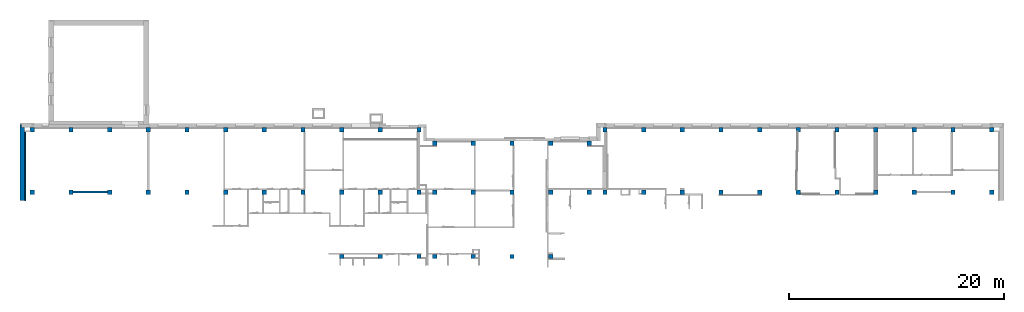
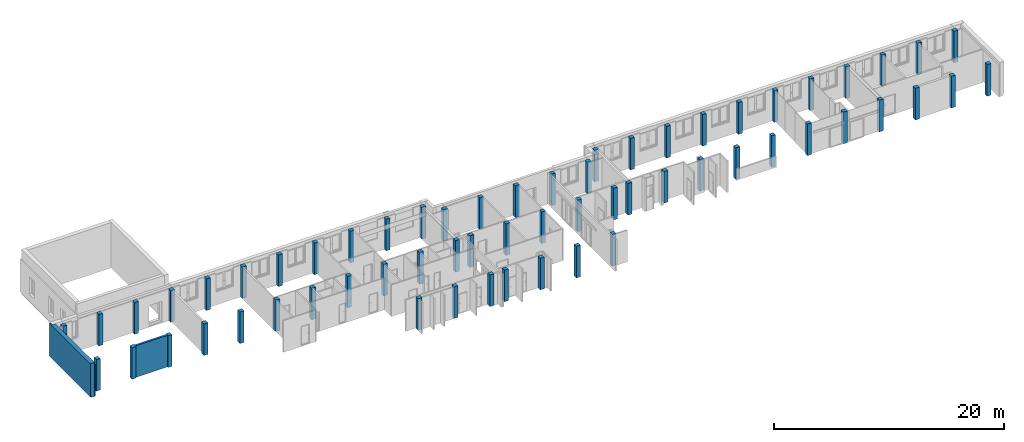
# One storey, part 1 of 37: 61 columns, 3 walls.
"""IFC4 building model written with IfcOpenShell, lengths in metres."""

from ifc_helpers import new_model, entity, si_unit, converted_unit, derived_unit, frame, frame_2d, origin, origin_with_axes, place, context, subcontext, project, spatial, polyline, rectangle, outline, extrude, clip, bounded_halfspace, material, layer, layer_set, layer_usage, element, save


model = new_model("IFC4")

# Units and contexts
model_context = context("Model", 3, precision=1e-05, world=origin())
body_context = subcontext(model_context, "Body", "Model", "MODEL_VIEW")
ifc_project = project(units=[si_unit("LENGTHUNIT", "METRE"), si_unit("AREAUNIT", "SQUARE_METRE"), si_unit("VOLUMEUNIT", "CUBIC_METRE"), si_unit("MASSUNIT", "GRAM", prefix="KILO"), converted_unit("PLANEANGLEUNIT", "DEGREE", entity("IfcPlaneAngleMeasure", 0.0174532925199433), si_unit("PLANEANGLEUNIT", "RADIAN"), dimensions=[0, 0, 0, 0, 0, 0, 0]), derived_unit("THERMALTRANSMITTANCEUNIT", [(si_unit("POWERUNIT", "WATT"), 1), (si_unit("THERMODYNAMICTEMPERATUREUNIT", "KELVIN"), -1), (si_unit("LENGTHUNIT", "METRE"), -2)]), derived_unit("VOLUMETRICFLOWRATEUNIT", [(si_unit("LENGTHUNIT", "METRE"), 3), (converted_unit("TIMEUNIT", "hour", entity("IfcTimeMeasure", 3600.0), si_unit("TIMEUNIT", "SECOND"), dimensions=[0, 0, 1, 0, 0, 0, 0]), -1), (si_unit("LENGTHUNIT", "METRE"), -1)])], contexts=[model_context])

# Site, building, storey
site_placement = place(None, origin())
site = spatial("IfcSite", under=ifc_project, at=site_placement, Name="3. ASŘ", CompositionType="ELEMENT")
building_placement = place(site_placement, origin())
building = spatial("IfcBuilding", under=site, at=building_placement, Name="Pavilon B", CompositionType="ELEMENT")
storey_placement = place(building_placement, origin())
storey = spatial("IfcBuildingStorey", under=building, at=storey_placement, Name="Půdorys 1.NP", CompositionType="ELEMENT", Elevation=0.0)

# Columns
ifc_material_1 = material(Name="ZELEZOBETONOVÁ KCE")
column_1_placement = place(storey_placement, frame((81.7, -21.4, -0.1)))
element("IfcColumn", 1, at=column_1_placement, inside=storey, material=ifc_material_1, PredefinedType="COLUMN", context=body_context, shape_type="SweptSolid", body=[
    extrude(rectangle(XDim=0.4, YDim=0.4, at=frame_2d((-0.2, -0.2), x_axis=(-1.0, 0.0))), origin_with_axes(), (0.0, 0.0, 1.0), 3.35),
])
ifc_material_2 = material(Name="ZELEZOBETONOVÁ KCE")
column_2_placement = place(storey_placement, frame((78.1, -21.4, -0.1)))
element("IfcColumn", 2, at=column_2_placement, inside=storey, material=ifc_material_2, PredefinedType="COLUMN", context=body_context, shape_type="SweptSolid", body=[
    extrude(rectangle(XDim=0.4, YDim=0.4, at=frame_2d((-0.2, -0.2), x_axis=(-1.0, 0.0))), origin_with_axes(), (0.0, 0.0, 1.0), 3.35),
])
ifc_material_3 = material(Name="ZELEZOBETONOVÁ KCE")
column_3_placement = place(storey_placement, frame((85.3, -21.4, -0.1)))
element("IfcColumn", 3, at=column_3_placement, inside=storey, material=ifc_material_3, PredefinedType="COLUMN", context=body_context, shape_type="SweptSolid", body=[
    extrude(rectangle(XDim=0.4, YDim=0.4, at=frame_2d((-0.2, -0.2), x_axis=(-1.0, 0.0))), origin_with_axes(), (0.0, 0.0, 1.0), 3.35),
])
ifc_material_4 = material(Name="ZELEZOBETONOVÁ KCE")
column_4_placement = place(storey_placement, frame((47.85, -16.85, -0.1)))
element("IfcColumn", 4, at=column_4_placement, inside=storey, material=ifc_material_4, PredefinedType="COLUMN", context=body_context, shape_type="SweptSolid", body=[
    extrude(rectangle(XDim=0.4, YDim=0.4, at=frame_2d((-0.2, -0.2), x_axis=(-1.0, 0.0))), origin_with_axes(), (0.0, 0.0, 1.0), 3.35),
])
ifc_material_5 = material(Name="ZELEZOBETONOVÁ KCE")
column_5_placement = place(storey_placement, frame((24.8, -21.4, -0.1)))
element("IfcColumn", 5, at=column_5_placement, inside=storey, material=ifc_material_5, PredefinedType="COLUMN", context=body_context, shape_type="SweptSolid", body=[
    extrude(rectangle(XDim=0.4, YDim=0.4, at=frame_2d((-0.2, -0.2), x_axis=(-1.0, 0.0))), origin_with_axes(), (0.0, 0.0, 1.0), 3.35),
])
ifc_material_6 = material(Name="ZELEZOBETONOVÁ KCE")
column_6_placement = place(storey_placement, frame((-3.99999999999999, -21.4, -0.1)))
element("IfcColumn", 6, at=column_6_placement, inside=storey, material=ifc_material_6, PredefinedType="COLUMN", context=body_context, shape_type="SweptSolid", body=[
    extrude(rectangle(XDim=0.4, YDim=0.4, at=frame_2d((-0.2, -0.2), x_axis=(-1.0, 0.0))), origin_with_axes(), (0.0, 0.0, 1.0), 3.35),
])
ifc_material_7 = material(Name="ZELEZOBETONOVÁ KCE")
column_7_placement = place(storey_placement, frame((3.20000000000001, -21.4, -0.1)))
element("IfcColumn", 7, at=column_7_placement, inside=storey, material=ifc_material_7, PredefinedType="COLUMN", context=body_context, shape_type="SweptSolid", body=[
    extrude(rectangle(XDim=0.4, YDim=0.4, at=frame_2d((-0.2, -0.2), x_axis=(-1.0, 0.0))), origin_with_axes(), (0.0, 0.0, 1.0), 3.35),
])
ifc_material_8 = material(Name="ZELEZOBETONOVÁ KCE")
column_8_placement = place(storey_placement, frame((-0.399999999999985, -21.4, -0.1)))
element("IfcColumn", 8, at=column_8_placement, inside=storey, material=ifc_material_8, PredefinedType="COLUMN", context=body_context, shape_type="SweptSolid", body=[
    extrude(rectangle(XDim=0.4, YDim=0.4, at=frame_2d((-0.2, -0.2), x_axis=(-1.0, 0.0))), origin_with_axes(), (0.0, 0.0, 1.0), 3.35),
])
ifc_material_9 = material(Name="ZELEZOBETONOVÁ KCE")
column_9_placement = place(storey_placement, frame((10.4, -21.4, -0.1)))
element("IfcColumn", 9, at=column_9_placement, inside=storey, material=ifc_material_9, PredefinedType="COLUMN", context=body_context, shape_type="SweptSolid", body=[
    extrude(rectangle(XDim=0.4, YDim=0.4, at=frame_2d((-0.2, -0.2), x_axis=(-1.0, 0.0))), origin_with_axes(), (0.0, 0.0, 1.0), 3.35),
])
ifc_material_10 = material(Name="ZELEZOBETONOVÁ KCE")
column_10_placement = place(storey_placement, frame((28.4, -21.4, -0.12)))
element("IfcColumn", 10, at=column_10_placement, inside=storey, material=ifc_material_10, PredefinedType="COLUMN", context=body_context, shape_type="SweptSolid", body=[
    extrude(rectangle(XDim=0.4, YDim=0.4, at=frame_2d((-0.2, -0.2), x_axis=(-1.0, 0.0))), origin_with_axes(), (0.0, 0.0, 1.0), 3.37),
])
ifc_material_11 = material(Name="ZELEZOBETONOVÁ KCE")
column_11_placement = place(storey_placement, frame((33.45, -21.4, -0.1)))
element("IfcColumn", 11, at=column_11_placement, inside=storey, material=ifc_material_11, PredefinedType="COLUMN", context=body_context, shape_type="SweptSolid", body=[
    extrude(rectangle(XDim=0.4, YDim=0.4, at=frame_2d((-0.2, -0.2), x_axis=(-1.0, 0.0))), origin_with_axes(), (0.0, 0.0, 1.0), 3.35),
])
ifc_material_12 = material(Name="ZELEZOBETONOVÁ KCE")
column_12_placement = place(storey_placement, frame((40.65, -27.4, -0.1)))
element("IfcColumn", 12, at=column_12_placement, inside=storey, material=ifc_material_12, PredefinedType="COLUMN", context=body_context, shape_type="SweptSolid", body=[
    extrude(rectangle(XDim=0.4, YDim=0.4, at=frame_2d((-0.2, -0.2), x_axis=(-1.0, 0.0))), origin_with_axes(), (0.0, 0.0, 1.0), 3.35),
])
ifc_material_13 = material(Name="ZELEZOBETONOVÁ KCE")
column_13_placement = place(storey_placement, frame((37.05, -16.85, -0.1)))
element("IfcColumn", 13, at=column_13_placement, inside=storey, material=ifc_material_13, PredefinedType="COLUMN", context=body_context, shape_type="SweptSolid", body=[
    extrude(rectangle(XDim=0.4, YDim=0.4, at=frame_2d((-0.2, -0.2), x_axis=(-1.0, 0.0))), origin_with_axes(), (0.0, 0.0, 1.0), 3.35),
])
ifc_material_14 = material(Name="ZELEZOBETONOVÁ KCE")
column_14_placement = place(storey_placement, frame((40.65, -16.85, -0.1)))
element("IfcColumn", 14, at=column_14_placement, inside=storey, material=ifc_material_14, PredefinedType="COLUMN", context=body_context, shape_type="SweptSolid", body=[
    extrude(rectangle(XDim=0.4, YDim=0.4, at=frame_2d((-0.2, -0.2), x_axis=(-1.0, 0.0))), origin_with_axes(), (0.0, 0.0, 1.0), 3.35),
])
ifc_material_15 = material(Name="ZELEZOBETONOVÁ KCE")
column_15_placement = place(storey_placement, frame((44.25, -16.85, -0.1)))
element("IfcColumn", 15, at=column_15_placement, inside=storey, material=ifc_material_15, PredefinedType="COLUMN", context=body_context, shape_type="SweptSolid", body=[
    extrude(rectangle(XDim=0.4, YDim=0.4, at=frame_2d((-0.2, -0.2), x_axis=(-1.0, 0.0))), origin_with_axes(), (0.0, 0.0, 1.0), 3.35),
])
ifc_material_16 = material(Name="ZELEZOBETONOVÁ KCE")
column_16_placement = place(storey_placement, frame((44.25, -21.4, -0.1)))
element("IfcColumn", 16, at=column_16_placement, inside=storey, material=ifc_material_16, PredefinedType="COLUMN", context=body_context, shape_type="SweptSolid", body=[
    extrude(rectangle(XDim=0.4, YDim=0.4, at=frame_2d((-0.2, -0.2), x_axis=(-1.0, 0.0))), origin_with_axes(), (0.0, 0.0, 1.0), 3.35),
])
ifc_material_17 = material(Name="ZELEZOBETONOVÁ KCE")
column_17_placement = place(storey_placement, frame((47.85, -21.4, -0.1)))
element("IfcColumn", 17, at=column_17_placement, inside=storey, material=ifc_material_17, PredefinedType="COLUMN", context=body_context, shape_type="SweptSolid", body=[
    extrude(rectangle(XDim=0.4, YDim=0.4, at=frame_2d((-0.2, -0.2), x_axis=(-1.0, 0.0))), origin_with_axes(), (0.0, 0.0, 1.0), 3.35),
])
ifc_material_18 = material(Name="ZELEZOBETONOVÁ KCE")
column_18_placement = place(storey_placement, frame((67.3, -21.4, -0.1)))
element("IfcColumn", 18, at=column_18_placement, inside=storey, material=ifc_material_18, PredefinedType="COLUMN", context=body_context, shape_type="SweptSolid", body=[
    extrude(rectangle(XDim=0.4, YDim=0.4, at=frame_2d((-0.2, -0.2), x_axis=(-1.0, 0.0))), origin_with_axes(), (0.0, 0.0, 1.0), 3.35),
])
ifc_material_19 = material(Name="ZELEZOBETONOVÁ KCE")
column_19_placement = place(storey_placement, frame((49.3, -21.4, -0.1)))
element("IfcColumn", 19, at=column_19_placement, inside=storey, material=ifc_material_19, PredefinedType="COLUMN", context=body_context, shape_type="SweptSolid", body=[
    extrude(rectangle(XDim=0.4, YDim=0.4, at=frame_2d((-0.2, -0.2), x_axis=(-1.0, 0.0))), origin_with_axes(), (0.0, 0.0, 1.0), 3.35),
])
ifc_material_20 = material(Name="ZELEZOBETONOVÁ KCE")
column_20_placement = place(storey_placement, frame((52.9, -21.4, -0.1)))
element("IfcColumn", 20, at=column_20_placement, inside=storey, material=ifc_material_20, PredefinedType="COLUMN", context=body_context, shape_type="SweptSolid", body=[
    extrude(rectangle(XDim=0.4, YDim=0.4, at=frame_2d((-0.2, -0.2), x_axis=(-1.0, 0.0))), origin_with_axes(), (0.0, 0.0, 1.0), 3.35),
])
ifc_material_21 = material(Name="ZELEZOBETONOVÁ KCE")
column_21_placement = place(storey_placement, frame((56.5, -21.4, -0.1)))
element("IfcColumn", 21, at=column_21_placement, inside=storey, material=ifc_material_21, PredefinedType="COLUMN", context=body_context, shape_type="SweptSolid", body=[
    extrude(rectangle(XDim=0.4, YDim=0.4, at=frame_2d((-0.2, -0.2), x_axis=(-1.0, 0.0))), origin_with_axes(), (0.0, 0.0, 1.0), 3.35),
])
ifc_material_22 = material(Name="ZELEZOBETONOVÁ KCE")
column_22_placement = place(storey_placement, frame((44.25, -27.4, -0.1)))
element("IfcColumn", 22, at=column_22_placement, inside=storey, material=ifc_material_22, PredefinedType="COLUMN", context=body_context, shape_type="SweptSolid", body=[
    extrude(rectangle(XDim=0.4, YDim=0.4, at=frame_2d((-0.2, -0.2), x_axis=(-1.0, 0.0))), origin_with_axes(), (0.0, 0.0, 1.0), 3.35),
])
ifc_material_23 = material(Name="ZELEZOBETONOVÁ KCE")
column_23_placement = place(storey_placement, frame((52.9, -15.6, -0.1)))
element("IfcColumn", 23, at=column_23_placement, inside=storey, material=ifc_material_23, PredefinedType="COLUMN", context=body_context, shape_type="SweptSolid", body=[
    extrude(rectangle(XDim=0.4, YDim=0.4, at=frame_2d((-0.2, -0.2), x_axis=(-1.0, 0.0))), origin_with_axes(), (0.0, 0.0, 1.0), 3.35),
])
ifc_material_24 = material(Name="ZELEZOBETONOVÁ KCE")
column_24_placement = place(storey_placement, frame((63.7, -15.6, -0.1)))
element("IfcColumn", 24, at=column_24_placement, inside=storey, material=ifc_material_24, PredefinedType="COLUMN", context=body_context, shape_type="SweptSolid", body=[
    extrude(rectangle(XDim=0.4, YDim=0.4, at=frame_2d((-0.2, -0.2), x_axis=(-1.0, 0.0))), origin_with_axes(), (0.0, 0.0, 1.0), 3.35),
])
ifc_material_25 = material(Name="ZELEZOBETONOVÁ KCE")
column_25_placement = place(storey_placement, frame((85.3, -15.6, -0.1)))
element("IfcColumn", 25, at=column_25_placement, inside=storey, material=ifc_material_25, PredefinedType="COLUMN", context=body_context, shape_type="SweptSolid", body=[
    extrude(rectangle(XDim=0.4, YDim=0.4, at=frame_2d((-0.2, -0.2), x_axis=(-1.0, 0.0))), origin_with_axes(), (0.0, 0.0, 1.0), 3.35),
])
ifc_material_26 = material(Name="ZELEZOBETONOVÁ KCE")
column_26_placement = place(storey_placement, frame((56.5, -15.6, -0.1)))
element("IfcColumn", 26, at=column_26_placement, inside=storey, material=ifc_material_26, PredefinedType="COLUMN", context=body_context, shape_type="SweptSolid", body=[
    extrude(rectangle(XDim=0.4, YDim=0.4, at=frame_2d((-0.2, -0.2), x_axis=(-1.0, 0.0))), origin_with_axes(), (0.0, 0.0, 1.0), 3.35),
])
ifc_material_27 = material(Name="ZELEZOBETONOVÁ KCE")
column_27_placement = place(storey_placement, frame((60.1, -15.6, -0.1)))
element("IfcColumn", 27, at=column_27_placement, inside=storey, material=ifc_material_27, PredefinedType="COLUMN", context=body_context, shape_type="SweptSolid", body=[
    extrude(rectangle(XDim=0.4, YDim=0.4, at=frame_2d((-0.2, -0.2), x_axis=(-1.0, 0.0))), origin_with_axes(), (0.0, 0.0, 1.0), 3.35),
])
ifc_material_28 = material(Name="ZELEZOBETONOVÁ KCE")
column_28_placement = place(storey_placement, frame((70.9, -15.6, -0.1)))
element("IfcColumn", 28, at=column_28_placement, inside=storey, material=ifc_material_28, PredefinedType="COLUMN", context=body_context, shape_type="SweptSolid", body=[
    extrude(rectangle(XDim=0.4, YDim=0.4, at=frame_2d((-0.2, -0.2), x_axis=(-1.0, 0.0))), origin_with_axes(), (0.0, 0.0, 1.0), 3.35),
])
ifc_material_29 = material(Name="ZELEZOBETONOVÁ KCE")
column_29_placement = place(storey_placement, frame((60.1, -21.4, -0.1)))
element("IfcColumn", 29, at=column_29_placement, inside=storey, material=ifc_material_29, PredefinedType="COLUMN", context=body_context, shape_type="SweptSolid", body=[
    extrude(rectangle(XDim=0.4, YDim=0.4, at=frame_2d((-0.2, -0.2), x_axis=(-1.0, 0.0))), origin_with_axes(), (0.0, 0.0, 1.0), 3.35),
])
ifc_material_30 = material(Name="ZELEZOBETONOVÁ KCE")
column_30_placement = place(storey_placement, frame((63.7, -21.4, -0.1)))
element("IfcColumn", 30, at=column_30_placement, inside=storey, material=ifc_material_30, PredefinedType="COLUMN", context=body_context, shape_type="SweptSolid", body=[
    extrude(rectangle(XDim=0.4, YDim=0.4, at=frame_2d((-0.2, -0.2), x_axis=(-1.0, 0.0))), origin_with_axes(), (0.0, 0.0, 1.0), 3.35),
])
ifc_material_31 = material(Name="ZELEZOBETONOVÁ KCE")
column_31_placement = place(storey_placement, frame((67.3, -15.6, -0.1)))
element("IfcColumn", 31, at=column_31_placement, inside=storey, material=ifc_material_31, PredefinedType="COLUMN", context=body_context, shape_type="SweptSolid", body=[
    extrude(rectangle(XDim=0.4, YDim=0.4, at=frame_2d((-0.2, -0.2), x_axis=(-1.0, 0.0))), origin_with_axes(), (0.0, 0.0, 1.0), 3.35),
])
ifc_material_32 = material(Name="ZELEZOBETONOVÁ KCE")
column_32_placement = place(storey_placement, frame((49.3, -15.6, -0.1)))
element("IfcColumn", 32, at=column_32_placement, inside=storey, material=ifc_material_32, PredefinedType="COLUMN", context=body_context, shape_type="SweptSolid", body=[
    extrude(rectangle(XDim=0.4, YDim=0.4, at=frame_2d((-0.2, -0.2), x_axis=(-1.0, 0.0))), origin_with_axes(), (0.0, 0.0, 1.0), 3.35),
])
ifc_material_33 = material(Name="ZELEZOBETONOVÁ KCE")
column_33_placement = place(storey_placement, frame((70.9, -21.4, -0.1)))
element("IfcColumn", 33, at=column_33_placement, inside=storey, material=ifc_material_33, PredefinedType="COLUMN", context=body_context, shape_type="SweptSolid", body=[
    extrude(rectangle(XDim=0.4, YDim=0.4, at=frame_2d((-0.2, -0.2), x_axis=(-1.0, 0.0))), origin_with_axes(), (0.0, 0.0, 1.0), 3.35),
])
ifc_material_34 = material(Name="ZELEZOBETONOVÁ KCE")
column_34_placement = place(storey_placement, frame((74.5, -21.4, -0.1)))
element("IfcColumn", 34, at=column_34_placement, inside=storey, material=ifc_material_34, PredefinedType="COLUMN", context=body_context, shape_type="SweptSolid", body=[
    extrude(rectangle(XDim=0.4, YDim=0.4, at=frame_2d((-0.2, -0.2), x_axis=(-1.0, 0.0))), origin_with_axes(), (0.0, 0.0, 1.0), 3.35),
])
ifc_material_35 = material(Name="ZELEZOBETONOVÁ KCE")
column_35_placement = place(storey_placement, frame((74.5, -15.6, -0.1)))
element("IfcColumn", 35, at=column_35_placement, inside=storey, material=ifc_material_35, PredefinedType="COLUMN", context=body_context, shape_type="SweptSolid", body=[
    extrude(rectangle(XDim=0.4, YDim=0.4, at=frame_2d((-0.2, -0.2), x_axis=(-1.0, 0.0))), origin_with_axes(), (0.0, 0.0, 1.0), 3.35),
])
ifc_material_36 = material(Name="ZELEZOBETONOVÁ KCE")
column_36_placement = place(storey_placement, frame((33.45, -27.4, -0.1)))
element("IfcColumn", 36, at=column_36_placement, inside=storey, material=ifc_material_36, PredefinedType="COLUMN", context=body_context, shape_type="SweptSolid", body=[
    extrude(rectangle(XDim=0.4, YDim=0.4, at=frame_2d((-0.2, -0.2), x_axis=(-1.0, 0.0))), origin_with_axes(), (0.0, 0.0, 1.0), 3.35),
])
ifc_material_37 = material(Name="ZELEZOBETONOVÁ KCE")
column_37_placement = place(storey_placement, frame((37.05, -27.4, -0.1)))
element("IfcColumn", 37, at=column_37_placement, inside=storey, material=ifc_material_37, PredefinedType="COLUMN", context=body_context, shape_type="SweptSolid", body=[
    extrude(rectangle(XDim=0.4, YDim=0.4, at=frame_2d((-0.2, -0.2), x_axis=(-1.0, 0.0))), origin_with_axes(), (0.0, 0.0, 1.0), 3.35),
])
ifc_material_38 = material(Name="ZELEZOBETONOVÁ KCE")
column_38_placement = place(storey_placement, frame((40.65, -21.4, -0.1)))
element("IfcColumn", 38, at=column_38_placement, inside=storey, material=ifc_material_38, PredefinedType="COLUMN", context=body_context, shape_type="SweptSolid", body=[
    extrude(rectangle(XDim=0.4, YDim=0.4, at=frame_2d((-0.2, -0.2), x_axis=(-1.0, 0.0))), origin_with_axes(), (0.0, 0.0, 1.0), 3.35),
])
ifc_material_39 = material(Name="ZELEZOBETONOVÁ KCE")
column_39_placement = place(storey_placement, frame((37.05, -21.4, -0.1)))
element("IfcColumn", 39, at=column_39_placement, inside=storey, material=ifc_material_39, PredefinedType="COLUMN", context=body_context, shape_type="SweptSolid", body=[
    extrude(rectangle(XDim=0.4, YDim=0.4, at=frame_2d((-0.2, -0.2), x_axis=(-1.0, 0.0))), origin_with_axes(), (0.0, 0.0, 1.0), 3.35),
])
ifc_material_40 = material(Name="ZELEZOBETONOVÁ KCE")
column_40_placement = place(storey_placement, frame((6.80000000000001, -21.4, -0.1)))
element("IfcColumn", 40, at=column_40_placement, inside=storey, material=ifc_material_40, PredefinedType="COLUMN", context=body_context, shape_type="SweptSolid", body=[
    extrude(rectangle(XDim=0.4, YDim=0.4, at=frame_2d((-0.2, -0.2), x_axis=(-1.0, 0.0))), origin_with_axes(), (0.0, 0.0, 1.0), 3.35),
])
ifc_material_41 = material(Name="ZELEZOBETONOVÁ KCE")
column_41_placement = place(storey_placement, frame((-0.399999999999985, -15.6, -0.1)))
element("IfcColumn", 41, at=column_41_placement, inside=storey, material=ifc_material_41, PredefinedType="COLUMN", context=body_context, shape_type="SweptSolid", body=[
    extrude(rectangle(XDim=0.4, YDim=0.4, at=frame_2d((-0.2, -0.2), x_axis=(-1.0, 0.0))), origin_with_axes(), (0.0, 0.0, 1.0), 3.35),
])
ifc_material_42 = material(Name="ZELEZOBETONOVÁ KCE")
column_42_placement = place(storey_placement, frame((3.20000000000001, -15.6, -0.1)))
element("IfcColumn", 42, at=column_42_placement, inside=storey, material=ifc_material_42, PredefinedType="COLUMN", context=body_context, shape_type="SweptSolid", body=[
    extrude(rectangle(XDim=0.4, YDim=0.4, at=frame_2d((-0.2, -0.2), x_axis=(-1.0, 0.0))), origin_with_axes(), (0.0, 0.0, 1.0), 3.35),
])
ifc_material_43 = material(Name="ZELEZOBETONOVÁ KCE")
column_43_placement = place(storey_placement, frame((32.0, -27.4, -0.1)))
element("IfcColumn", 43, at=column_43_placement, inside=storey, material=ifc_material_43, PredefinedType="COLUMN", context=body_context, shape_type="SweptSolid", body=[
    extrude(rectangle(XDim=0.4, YDim=0.4, at=frame_2d((-0.2, -0.2), x_axis=(-1.0, 0.0))), origin_with_axes(), (0.0, 0.0, 1.0), 3.35),
])
ifc_material_44 = material(Name="ZELEZOBETONOVÁ KCE")
column_44_placement = place(storey_placement, frame((24.8, -27.4, -0.1)))
element("IfcColumn", 44, at=column_44_placement, inside=storey, material=ifc_material_44, PredefinedType="COLUMN", context=body_context, shape_type="SweptSolid", body=[
    extrude(rectangle(XDim=0.4, YDim=0.4, at=frame_2d((-0.2, -0.2), x_axis=(-1.0, 0.0))), origin_with_axes(), (0.0, 0.0, 1.0), 3.35),
])
ifc_material_45 = material(Name="ZELEZOBETONOVÁ KCE")
column_45_placement = place(storey_placement, frame((28.4, -27.4, -0.1)))
element("IfcColumn", 45, at=column_45_placement, inside=storey, material=ifc_material_45, PredefinedType="COLUMN", context=body_context, shape_type="SweptSolid", body=[
    extrude(rectangle(XDim=0.4, YDim=0.4, at=frame_2d((-0.2, -0.2), x_axis=(-1.0, 0.0))), origin_with_axes(), (0.0, 0.0, 1.0), 3.35),
])
ifc_material_46 = material(Name="ZELEZOBETONOVÁ KCE")
column_46_placement = place(storey_placement, frame((78.1, -15.6, -0.1)))
element("IfcColumn", 46, at=column_46_placement, inside=storey, material=ifc_material_46, PredefinedType="COLUMN", context=body_context, shape_type="SweptSolid", body=[
    extrude(rectangle(XDim=0.4, YDim=0.4, at=frame_2d((-0.2, -0.2), x_axis=(-1.0, 0.0))), origin_with_axes(), (0.0, 0.0, 1.0), 3.35),
])
ifc_material_47 = material(Name="ZELEZOBETONOVÁ KCE")
column_47_placement = place(storey_placement, frame((81.7, -15.6, -0.1)))
element("IfcColumn", 47, at=column_47_placement, inside=storey, material=ifc_material_47, PredefinedType="COLUMN", context=body_context, shape_type="SweptSolid", body=[
    extrude(rectangle(XDim=0.4, YDim=0.4, at=frame_2d((-0.2, -0.2), x_axis=(-1.0, 0.0))), origin_with_axes(), (0.0, 0.0, 1.0), 3.35),
])
ifc_material_48 = material(Name="ZELEZOBETONOVÁ KCE")
column_48_placement = place(storey_placement, frame((14.0, -21.4, -0.1)))
element("IfcColumn", 48, at=column_48_placement, inside=storey, material=ifc_material_48, PredefinedType="COLUMN", context=body_context, shape_type="SweptSolid", body=[
    extrude(rectangle(XDim=0.4, YDim=0.4, at=frame_2d((-0.2, -0.2), x_axis=(-1.0, 0.0))), origin_with_axes(), (0.0, 0.0, 1.0), 3.35),
])
ifc_material_49 = material(Name="ZELEZOBETONOVÁ KCE")
column_49_placement = place(storey_placement, frame((21.2, -21.4, -0.1)))
element("IfcColumn", 49, at=column_49_placement, inside=storey, material=ifc_material_49, PredefinedType="COLUMN", context=body_context, shape_type="SweptSolid", body=[
    extrude(rectangle(XDim=0.4, YDim=0.4, at=frame_2d((-0.2, -0.2), x_axis=(-1.0, 0.0))), origin_with_axes(), (0.0, 0.0, 1.0), 3.35),
])
ifc_material_50 = material(Name="ZELEZOBETONOVÁ KCE")
column_50_placement = place(storey_placement, frame((17.6, -21.4, -0.1)))
element("IfcColumn", 50, at=column_50_placement, inside=storey, material=ifc_material_50, PredefinedType="COLUMN", context=body_context, shape_type="SweptSolid", body=[
    extrude(rectangle(XDim=0.4, YDim=0.4, at=frame_2d((-0.2, -0.2), x_axis=(-1.0, 0.0))), origin_with_axes(), (0.0, 0.0, 1.0), 3.35),
])
ifc_material_51 = material(Name="ZELEZOBETONOVÁ KCE")
column_51_placement = place(storey_placement, frame((-3.99999999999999, -15.6, -0.1)))
element("IfcColumn", 51, at=column_51_placement, inside=storey, material=ifc_material_51, PredefinedType="COLUMN", context=body_context, shape_type="SweptSolid", body=[
    extrude(rectangle(XDim=0.4, YDim=0.4, at=frame_2d((-0.2, -0.2), x_axis=(-1.0, 0.0))), origin_with_axes(), (0.0, 0.0, 1.0), 3.35),
])
ifc_material_52 = material(Name="ZELEZOBETONOVÁ KCE")
column_52_placement = place(storey_placement, frame((33.45, -16.85, -0.1)))
element("IfcColumn", 52, at=column_52_placement, inside=storey, material=ifc_material_52, PredefinedType="COLUMN", context=body_context, shape_type="SweptSolid", body=[
    extrude(rectangle(XDim=0.4, YDim=0.4, at=frame_2d((-0.2, -0.2), x_axis=(-1.0, 0.0))), origin_with_axes(), (0.0, 0.0, 1.0), 3.35),
])
ifc_material_53 = material(Name="ZELEZOBETONOVÁ KCE")
column_53_placement = place(storey_placement, frame((32.0, -21.4, -0.1)))
element("IfcColumn", 53, at=column_53_placement, inside=storey, material=ifc_material_53, PredefinedType="COLUMN", context=body_context, shape_type="SweptSolid", body=[
    extrude(rectangle(XDim=0.4, YDim=0.4, at=frame_2d((-0.2, -0.2), x_axis=(-1.0, 0.0))), origin_with_axes(), (0.0, 0.0, 1.0), 3.35),
])
ifc_material_54 = material(Name="ZELEZOBETONOVÁ KCE")
column_54_placement = place(storey_placement, frame((28.4, -15.6, -0.1)))
element("IfcColumn", 54, at=column_54_placement, inside=storey, material=ifc_material_54, PredefinedType="COLUMN", context=body_context, shape_type="SweptSolid", body=[
    extrude(rectangle(XDim=0.4, YDim=0.4, at=frame_2d((-0.2, -0.2), x_axis=(-1.0, 0.0))), origin_with_axes(), (0.0, 0.0, 1.0), 3.35),
])
ifc_material_55 = material(Name="ZELEZOBETONOVÁ KCE")
column_55_placement = place(storey_placement, frame((24.8, -15.6, -0.1)))
element("IfcColumn", 55, at=column_55_placement, inside=storey, material=ifc_material_55, PredefinedType="COLUMN", context=body_context, shape_type="SweptSolid", body=[
    extrude(rectangle(XDim=0.4, YDim=0.4, at=frame_2d((-0.2, -0.2), x_axis=(-1.0, 0.0))), origin_with_axes(), (0.0, 0.0, 1.0), 3.35),
])
ifc_material_56 = material(Name="ZELEZOBETONOVÁ KCE")
column_56_placement = place(storey_placement, frame((32.0, -15.6, -0.1)))
element("IfcColumn", 56, at=column_56_placement, inside=storey, material=ifc_material_56, PredefinedType="COLUMN", context=body_context, shape_type="SweptSolid", body=[
    extrude(rectangle(XDim=0.4, YDim=0.4, at=frame_2d((-0.2, -0.2), x_axis=(-1.0, 0.0))), origin_with_axes(), (0.0, 0.0, 1.0), 3.35),
])
ifc_material_57 = material(Name="ZELEZOBETONOVÁ KCE")
column_57_placement = place(storey_placement, frame((14.0, -15.6, -0.1)))
element("IfcColumn", 57, at=column_57_placement, inside=storey, material=ifc_material_57, PredefinedType="COLUMN", context=body_context, shape_type="SweptSolid", body=[
    extrude(rectangle(XDim=0.4, YDim=0.4, at=frame_2d((-0.2, -0.2), x_axis=(-1.0, 0.0))), origin_with_axes(), (0.0, 0.0, 1.0), 3.35),
])
ifc_material_58 = material(Name="ZELEZOBETONOVÁ KCE")
column_58_placement = place(storey_placement, frame((21.2, -15.6, -0.1)))
element("IfcColumn", 58, at=column_58_placement, inside=storey, material=ifc_material_58, PredefinedType="COLUMN", context=body_context, shape_type="SweptSolid", body=[
    extrude(rectangle(XDim=0.4, YDim=0.4, at=frame_2d((-0.2, -0.2), x_axis=(-1.0, 0.0))), origin_with_axes(), (0.0, 0.0, 1.0), 3.35),
])
ifc_material_59 = material(Name="ZELEZOBETONOVÁ KCE")
column_59_placement = place(storey_placement, frame((6.80000000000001, -15.6, -0.1)))
element("IfcColumn", 59, at=column_59_placement, inside=storey, material=ifc_material_59, PredefinedType="COLUMN", context=body_context, shape_type="SweptSolid", body=[
    extrude(rectangle(XDim=0.4, YDim=0.4, at=frame_2d((-0.2, -0.2), x_axis=(-1.0, 0.0))), origin_with_axes(), (0.0, 0.0, 1.0), 3.35),
])
ifc_material_60 = material(Name="ZELEZOBETONOVÁ KCE")
column_60_placement = place(storey_placement, frame((17.6, -15.6, -0.1)))
element("IfcColumn", 60, at=column_60_placement, inside=storey, material=ifc_material_60, PredefinedType="COLUMN", context=body_context, shape_type="SweptSolid", body=[
    extrude(rectangle(XDim=0.4, YDim=0.4, at=frame_2d((-0.2, -0.2), x_axis=(-1.0, 0.0))), origin_with_axes(), (0.0, 0.0, 1.0), 3.35),
])
ifc_material_61 = material(Name="ZELEZOBETONOVÁ KCE")
column_61_placement = place(storey_placement, frame((10.4, -15.6, -0.1)))
element("IfcColumn", 61, at=column_61_placement, inside=storey, material=ifc_material_61, PredefinedType="COLUMN", context=body_context, shape_type="SweptSolid", body=[
    extrude(rectangle(XDim=0.4, YDim=0.4, at=frame_2d((-0.2, -0.2), x_axis=(-1.0, 0.0))), origin_with_axes(), (0.0, 0.0, 1.0), 3.35),
])

# Walls
ifc_material_62 = material(Name="ZELEZOBETONOVÁ KCE")
ifc_layer_1 = layer(ifc_material_62, 0.2)
ifc_layer_set_1 = layer_set([ifc_layer_1])
ifc_layer_usage_1 = layer_usage(ifc_layer_set_1, "AXIS2", "POSITIVE", -0.1)
wall_1_placement = place(storey_placement, frame((-0.399999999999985, -21.7, -0.1)))
element("IfcWall", 62, at=wall_1_placement, inside=storey, material=ifc_layer_usage_1, Name="ZELEZOBETONOVÁ KCE", context=body_context, shape_type="SweptSolid", body=[
    extrude(rectangle(XDim=3.2, YDim=0.2, at=frame_2d((1.6, 0.1), x_axis=(1.0, 0.0))), origin_with_axes(), (0.0, 0.0, 1.0), 3.35),
])
ifc_material_63 = material(Name="ZELEZOBETONOVÁ KCE")
ifc_layer_2 = layer(ifc_material_63, 0.300000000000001)
ifc_material_64 = material(Name="MINERÁLNÍ VATA")
ifc_layer_3 = layer(ifc_material_64, 0.12)
ifc_layer_set_2 = layer_set([ifc_layer_2, ifc_layer_3])
ifc_layer_usage_2 = layer_usage(ifc_layer_set_2, "AXIS2", "POSITIVE", 0.0)
wall_2_placement = place(storey_placement, frame((-4.91999999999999, -22.4, -0.1), z_axis=(0.0, 0.0, 1.0), x_axis=(1.3374922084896e-16, 1.0, 0.0)))
element("IfcWall", 63, at=wall_2_placement, inside=storey, material=ifc_layer_usage_2, Name="ZELEZOBETONOVÁ KCE", context=body_context, shape_type="Clipping", body=[
    clip(extrude(outline(polyline([(5.61746727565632e-17, -0.42), (6.8, -0.42), (6.8, -0.12), (7.1, -0.12), (7.1, 4.0124766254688e-17), (0.0, 0.0), (5.61746727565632e-17, -0.42)])), frame((-5.61746727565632e-17, 0.42, 0.0), z_axis=(0.0, 0.0, 1.0), x_axis=(1.0, 0.0, 0.0)), (0.0, 0.0, 1.0), 3.6), bounded_halfspace(frame((4.2, 0.348, 0.1), z_axis=(0.0, 0.0, 1.0), x_axis=(3.04502392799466e-14, -1.0, 0.0)), True, origin_with_axes(), polyline([(-5.61746727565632e-17, 0.42), (3.59785404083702e-15, 0.3), (6.8, 0.3), (7.1, 0.3), (7.1, 0.42), (-5.61746727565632e-17, 0.42)]))),
])
ifc_material_65 = material(Name="PÓROBETONOVÉ ZDIVO")
ifc_layer_4 = layer(ifc_material_65, 0.1)
ifc_layer_set_3 = layer_set([ifc_layer_4])
ifc_layer_usage_3 = layer_usage(ifc_layer_set_3, "AXIS2", "POSITIVE", 0.0)
wall_3_placement = place(storey_placement, frame((-4.91999999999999, -16.0, -0.1), z_axis=(0.0, 0.0, 1.0), x_axis=(0.0, -1.0, 0.0)))
element("IfcWall", 64, at=wall_3_placement, inside=storey, material=ifc_layer_usage_3, Name="PÓROBETONOVÉ ZDIVO", context=body_context, shape_type="SweptSolid", body=[
    extrude(rectangle(XDim=6.39999999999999, YDim=0.1, at=frame_2d((3.2, 0.05), x_axis=(1.0, 0.0))), origin_with_axes(), (0.0, 0.0, 1.0), 3.35),
])

save(model, "model.ifc")
